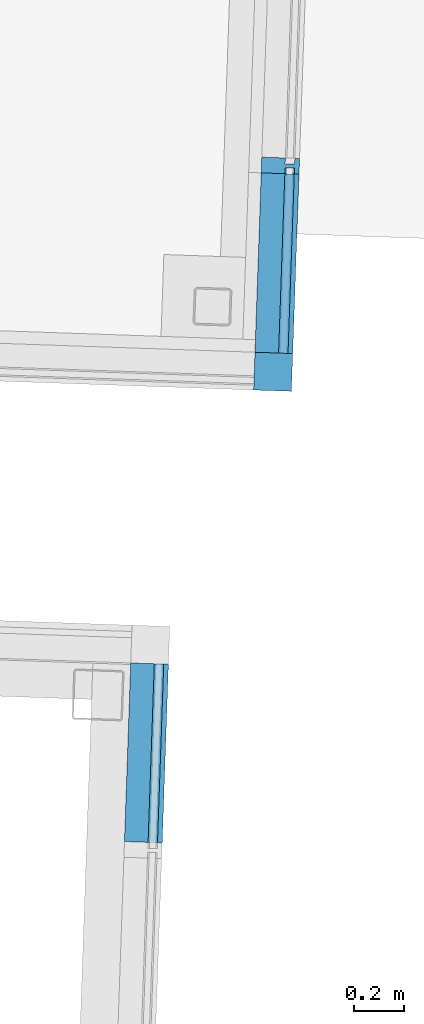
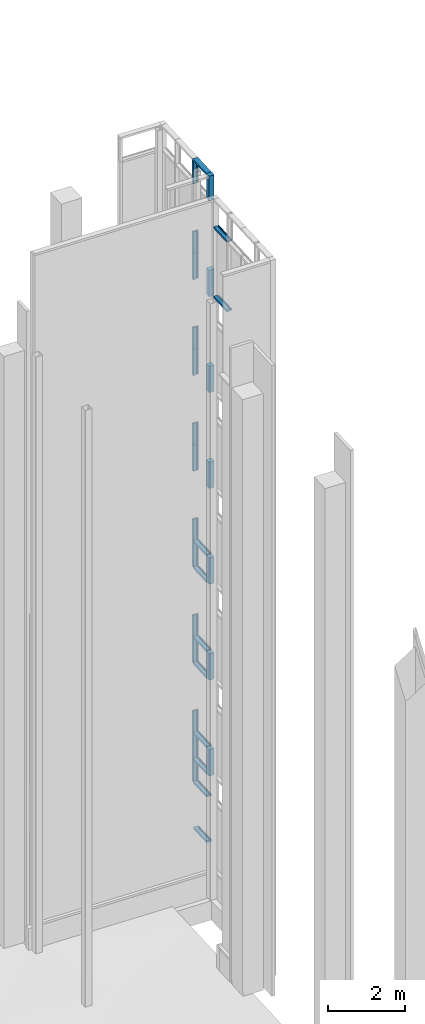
# One storey, part 18 of 44: 32 members, 3 elements without a shape of their own.
"""IFC2X3 building model written with IfcOpenShell, lengths in feet."""

from ifc_helpers import new_model, entity, si_unit, converted_unit, derived_unit, direction, frame, origin, origin_2d_with_axis, place, context, subcontext, project, spatial, polyline, rectangle, outline, extrude, material, type_object, element, aggregate, save


model = new_model("IFC2X3")

# Units and contexts
model_context = context("Model", 3, precision=0.0001, world=origin(), true_north=direction((0.999390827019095, 0.0348994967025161)))
body_context = subcontext(model_context, "Body", "Model", "MODEL_VIEW")
ifc_project = project(units=[converted_unit("LENGTHUNIT", "FOOT", entity("IfcRatioMeasure", 0.3048), si_unit("LENGTHUNIT", "METRE"), dimensions=[1, 0, 0, 0, 0, 0, 0]), converted_unit("AREAUNIT", "SQUARE FOOT", entity("IfcRatioMeasure", 0.09290304), si_unit("AREAUNIT", "SQUARE_METRE"), dimensions=[2, 0, 0, 0, 0, 0, 0]), converted_unit("VOLUMEUNIT", "CUBIC FOOT", entity("IfcRatioMeasure", 0.028316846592), si_unit("VOLUMEUNIT", "CUBIC_METRE"), dimensions=[3, 0, 0, 0, 0, 0, 0]), converted_unit("PLANEANGLEUNIT", "DEGREE", entity("IfcRatioMeasure", 0.0174532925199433), si_unit("PLANEANGLEUNIT", "RADIAN"), dimensions=[0, 0, 0, 0, 0, 0, 0]), si_unit("MASSUNIT", "GRAM", prefix="KILO"), si_unit("TIMEUNIT", "SECOND"), si_unit("FREQUENCYUNIT", "HERTZ"), si_unit("THERMODYNAMICTEMPERATUREUNIT", "DEGREE_CELSIUS"), derived_unit("THERMALTRANSMITTANCEUNIT", [(si_unit("MASSUNIT", "GRAM", prefix="KILO"), 1), (si_unit("THERMODYNAMICTEMPERATUREUNIT", "KELVIN"), -1), (si_unit("TIMEUNIT", "SECOND"), -3)]), derived_unit("VOLUMETRICFLOWRATEUNIT", [(si_unit("LENGTHUNIT", "METRE"), 3), (si_unit("TIMEUNIT", "SECOND"), -1)]), si_unit("ELECTRICCURRENTUNIT", "AMPERE"), si_unit("ELECTRICVOLTAGEUNIT", "VOLT"), si_unit("POWERUNIT", "WATT"), si_unit("FORCEUNIT", "NEWTON"), si_unit("ILLUMINANCEUNIT", "LUX"), si_unit("LUMINOUSFLUXUNIT", "LUMEN"), si_unit("LUMINOUSINTENSITYUNIT", "CANDELA"), derived_unit("USERDEFINED", [(si_unit("MASSUNIT", "GRAM", prefix="KILO"), -1), (si_unit("LENGTHUNIT", "METRE"), -2), (si_unit("TIMEUNIT", "SECOND"), 3), (si_unit("LUMINOUSFLUXUNIT", "LUMEN"), 1)]), derived_unit("LINEARVELOCITYUNIT", [(si_unit("LENGTHUNIT", "METRE"), 1), (si_unit("TIMEUNIT", "SECOND"), -1)]), si_unit("PRESSUREUNIT", "PASCAL"), derived_unit("USERDEFINED", [(si_unit("LENGTHUNIT", "METRE"), -2), (si_unit("MASSUNIT", "GRAM", prefix="KILO"), 1), (si_unit("TIMEUNIT", "SECOND"), -2)])], contexts=[model_context])

# Site, building, storey
site_placement = place(None, frame((892.518771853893, 322.38689265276, 0.00393700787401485), z_axis=(0.0, 0.0, 1.0), x_axis=(0.0348994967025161, 0.999390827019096, 0.0)))
site = spatial("IfcSite", under=ifc_project, at=site_placement, Name="Default", CompositionType="ELEMENT")
building_placement = place(site_placement, origin())
building = spatial("IfcBuilding", under=site, at=building_placement, CompositionType="ELEMENT")
storey_placement = place(building_placement, frame((0.0, 0.0, 544.75)))
storey = spatial("IfcBuildingStorey", under=building, at=storey_placement, Name="Exist Garage - Ground Level", CompositionType="ELEMENT", Elevation=544.75)

# Curtain wall, members
curtain_wall_type = type_object("IfcCurtainWallType", Name="Curtain Wall:(Existing) Curtainwall - Blank", PredefinedType="NOTDEFINED")
curtain_wall_1_placement = place(storey_placement, frame((0.0, 0.0, -544.75)))
curtain_wall_1 = element("IfcCurtainWall", 1, at=curtain_wall_1_placement, inside=storey, type_object=curtain_wall_type, Name="Curtain Wall:(Existing) Curtainwall - Blank", ObjectType="Curtain Wall:(Existing) Curtainwall - Blank")
ifc_material = material(Name="Metal - Aluminum")
member_1_placement = place(curtain_wall_1_placement, frame((0.0, 0.0, 544.75)))
member_1 = element("IfcMember", 2, at=member_1_placement, material=ifc_material, Name="Curtain Wall:(Existing) Curtainwall - Blank", ObjectType="Curtain Wall:(Existing) Curtainwall - Blank", context=body_context, shape_type="SweptSolid", body=[
    extrude(outline(polyline([(-0.104166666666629, -0.166666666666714), (0.104166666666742, -0.166666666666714), (0.104166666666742, -0.104166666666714), (0.0260416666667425, -0.104166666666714), (0.0260416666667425, 0.020833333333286), (0.104166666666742, 0.020833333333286), (0.104166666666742, 0.333333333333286), (-0.104166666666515, 0.333333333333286), (-0.104166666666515, 0.020833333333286), (-0.0260416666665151, 0.020833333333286), (-0.0260416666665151, -0.104166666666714), (-0.104166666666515, -0.104166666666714), (-0.104166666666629, -0.166666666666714)])), frame((99.2293801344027, 232.43062014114, 62.2500000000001), z_axis=(1.0, 0.0, 0.0), x_axis=(0.0, 0.0, -1.0)), (0.0, 0.0, 1.0), 2.36458333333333),
])
member_2_placement = place(curtain_wall_1_placement, frame((0.0, 0.0, 544.75)))
member_2 = element("IfcMember", 3, at=member_2_placement, material=ifc_material, Name="Curtain Wall:(Existing) Curtainwall - Blank", ObjectType="Curtain Wall:(Existing) Curtainwall - Blank", context=body_context, shape_type="SweptSolid", body=[
    extrude(outline(polyline([(-0.104166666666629, -0.166666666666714), (0.104166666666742, -0.166666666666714), (0.104166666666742, -0.104166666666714), (0.0260416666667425, -0.104166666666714), (0.0260416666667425, 0.020833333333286), (0.104166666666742, 0.020833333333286), (0.104166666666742, 0.333333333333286), (-0.104166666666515, 0.333333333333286), (-0.104166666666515, 0.020833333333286), (-0.0260416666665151, 0.020833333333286), (-0.0260416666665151, -0.104166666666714), (-0.104166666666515, -0.104166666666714), (-0.104166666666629, -0.166666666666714)])), frame((99.2293801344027, 232.43062014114, 69.5000000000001), z_axis=(1.0, 0.0, 0.0), x_axis=(0.0, 0.0, -1.0)), (0.0, 0.0, 1.0), 2.36458333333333),
])
aggregate(curtain_wall_1, [member_1, member_2])

curtain_wall_2_placement = place(storey_placement, frame((0.0, 0.0, -544.75)))
curtain_wall_2 = element("IfcCurtainWall", 4, at=curtain_wall_2_placement, inside=storey, type_object=curtain_wall_type, Name="Curtain Wall:(Existing) Curtainwall - Blank", ObjectType="Curtain Wall:(Existing) Curtainwall - Blank")
member_3_placement = place(curtain_wall_2_placement, frame((0.0, 0.0, 544.75)))
member_3 = element("IfcMember", 5, at=member_3_placement, material=ifc_material, Name="Curtain Wall:(Existing) Curtainwall - Blank", ObjectType="Curtain Wall:(Existing) Curtainwall - Blank", context=body_context, shape_type="SweptSolid", body=[
    extrude(rectangle(XDim=0.5, YDim=0.5, at=origin_2d_with_axis()), frame((105.510626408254, 231.013953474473, 9.5), z_axis=(0.0, 0.0, 1.0), x_axis=(-1.0, 0.0, 0.0)), (0.0, 0.0, 1.0), 2.75),
])
member_4_placement = place(curtain_wall_2_placement, frame((0.0, 0.0, 544.75)))
member_4 = element("IfcMember", 6, at=member_4_placement, material=ifc_material, Name="Curtain Wall:(Existing) Curtainwall - Blank", ObjectType="Curtain Wall:(Existing) Curtainwall - Blank", context=body_context, shape_type="SweptSolid", body=[
    extrude(rectangle(XDim=0.5, YDim=0.5, at=origin_2d_with_axis()), frame((105.510626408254, 231.013953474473, 19.5), z_axis=(0.0, 0.0, 1.0), x_axis=(-1.0, 0.0, 0.0)), (0.0, 0.0, 1.0), 2.75),
])
member_5_placement = place(curtain_wall_2_placement, frame((0.0, 0.0, 544.75)))
member_5 = element("IfcMember", 7, at=member_5_placement, material=ifc_material, Name="Curtain Wall:(Existing) Curtainwall - Blank", ObjectType="Curtain Wall:(Existing) Curtainwall - Blank", context=body_context, shape_type="SweptSolid", body=[
    extrude(rectangle(XDim=0.5, YDim=0.5, at=origin_2d_with_axis()), frame((105.510626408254, 231.013953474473, 29.5), z_axis=(0.0, 0.0, 1.0), x_axis=(-1.0, 0.0, 0.0)), (0.0, 0.0, 1.0), 2.75),
])
member_6_placement = place(curtain_wall_2_placement, frame((0.0, 0.0, 544.75)))
member_6 = element("IfcMember", 8, at=member_6_placement, material=ifc_material, Name="Curtain Wall:(Existing) Curtainwall - Blank", ObjectType="Curtain Wall:(Existing) Curtainwall - Blank", context=body_context, shape_type="SweptSolid", body=[
    extrude(rectangle(XDim=0.5, YDim=0.5, at=origin_2d_with_axis()), frame((105.510626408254, 231.013953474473, 39.5), z_axis=(0.0, 0.0, 1.0), x_axis=(-1.0, 0.0, 0.0)), (0.0, 0.0, 1.0), 2.75),
])
member_7_placement = place(curtain_wall_2_placement, frame((0.0, 0.0, 544.75)))
member_7 = element("IfcMember", 9, at=member_7_placement, material=ifc_material, Name="Curtain Wall:(Existing) Curtainwall - Blank", ObjectType="Curtain Wall:(Existing) Curtainwall - Blank", context=body_context, shape_type="SweptSolid", body=[
    extrude(rectangle(XDim=0.5, YDim=0.5, at=origin_2d_with_axis()), frame((105.510626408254, 231.013953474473, 49.5), z_axis=(0.0, 0.0, 1.0), x_axis=(-1.0, 0.0, 0.0)), (0.0, 0.0, 1.0), 2.75),
])
member_8_placement = place(curtain_wall_2_placement, frame((0.0, 0.0, 544.75)))
member_8 = element("IfcMember", 10, at=member_8_placement, material=ifc_material, Name="Curtain Wall:(Existing) Curtainwall - Blank", ObjectType="Curtain Wall:(Existing) Curtainwall - Blank", context=body_context, shape_type="SweptSolid", body=[
    extrude(rectangle(XDim=0.5, YDim=0.5, at=origin_2d_with_axis()), frame((105.510626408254, 231.013953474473, 59.5), z_axis=(0.0, 0.0, 1.0), x_axis=(-1.0, 0.0, 0.0)), (0.0, 0.0, 1.0), 2.75),
])
member_9_placement = place(curtain_wall_2_placement, frame((0.0, 0.0, 544.75)))
member_9 = element("IfcMember", 11, at=member_9_placement, material=ifc_material, Name="Curtain Wall:(Existing) Curtainwall - Blank", ObjectType="Curtain Wall:(Existing) Curtainwall - Blank", context=body_context, shape_type="SweptSolid", body=[
    extrude(rectangle(XDim=0.5, YDim=0.5, at=origin_2d_with_axis()), frame((105.510626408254, 231.013953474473, 69.5), z_axis=(0.0, 0.0, 1.0), x_axis=(-1.0, 0.0, 0.0)), (0.0, 0.0, 1.0), 2.58333333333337),
])
aggregate(curtain_wall_2, [member_3, member_4, member_5, member_6, member_7, member_8, member_9])

curtain_wall_3_placement = place(storey_placement, frame((0.0, 0.0, -544.75)))
curtain_wall_3 = element("IfcCurtainWall", 12, at=curtain_wall_3_placement, inside=storey, type_object=curtain_wall_type, Name="Curtain Wall:(Existing) Curtainwall - Blank", ObjectType="Curtain Wall:(Existing) Curtainwall - Blank")
member_10_placement = place(curtain_wall_3_placement, frame((0.0, 0.0, 544.75)))
member_10 = element("IfcMember", 13, at=member_10_placement, material=ifc_material, Name="Curtain Wall:(Existing) Curtainwall - Blank", ObjectType="Curtain Wall:(Existing) Curtainwall - Blank", context=body_context, shape_type="SweptSolid", body=[
    extrude(outline(polyline([(-0.104166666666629, -0.333333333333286), (0.104166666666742, -0.333333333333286), (0.104166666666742, -0.020833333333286), (0.0260416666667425, -0.020833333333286), (0.0260416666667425, 0.104166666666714), (0.104166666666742, 0.104166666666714), (0.104166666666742, 0.166666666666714), (-0.104166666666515, 0.166666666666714), (-0.104166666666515, 0.104166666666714), (-0.0260416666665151, 0.104166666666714), (-0.0260416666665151, -0.020833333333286), (-0.104166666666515, -0.020833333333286), (-0.104166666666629, -0.333333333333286)])), frame((108.135628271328, 230.93062014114, 9.50000000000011), z_axis=(-1.0, 0.0, 0.0), x_axis=(0.0, 0.0, -1.0)), (0.0, 0.0, 1.0), 2.37500186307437),
])
member_11_placement = place(curtain_wall_3_placement, frame((0.0, 0.0, 544.75)))
member_11 = element("IfcMember", 14, at=member_11_placement, material=ifc_material, Name="Curtain Wall:(Existing) Curtainwall - Blank", ObjectType="Curtain Wall:(Existing) Curtainwall - Blank", context=body_context, shape_type="SweptSolid", body=[
    extrude(outline(polyline([(-0.0716145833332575, -0.1875), (0.136718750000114, -0.1875), (0.136718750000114, 0.3125), (-0.0716145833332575, 0.3125), (-0.0716145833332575, 0.0), (0.00651041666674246, 0.0), (0.00651041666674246, -0.125), (-0.0716145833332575, -0.125), (-0.0716145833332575, -0.1875)])), frame((105.760626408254, 230.951453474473, 2.38671875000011), z_axis=(1.0, 0.0, 0.0), x_axis=(0.0, 0.0, -1.0)), (0.0, 0.0, 1.0), 2.37500186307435),
])
member_12_placement = place(curtain_wall_3_placement, frame((0.0, 0.0, 544.75)))
member_12 = element("IfcMember", 15, at=member_12_placement, material=ifc_material, Name="Curtain Wall:(Existing) Curtainwall - Blank", ObjectType="Curtain Wall:(Existing) Curtainwall - Blank", context=body_context, shape_type="SweptSolid", body=[
    extrude(outline(polyline([(-0.13671875, -0.3125), (0.0716145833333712, -0.3125), (0.0716145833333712, 0.0), (-0.00651041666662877, 0.0), (-0.00651041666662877, 0.125), (0.0716145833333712, 0.125), (0.0716145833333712, 0.1875), (-0.13671875, 0.1875), (-0.13671875, -0.3125)])), frame((108.239794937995, 230.951453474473, 71.9466145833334), z_axis=(-1.0, 0.0, 0.0), x_axis=(0.0, 0.0, -1.0)), (0.0, 0.0, 1.0), 2.47916852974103),
])
member_13_placement = place(curtain_wall_3_placement, frame((0.0, 0.0, 544.75)))
member_13 = element("IfcMember", 16, at=member_13_placement, material=ifc_material, Name="Curtain Wall:(Existing) Curtainwall - Blank", ObjectType="Curtain Wall:(Existing) Curtainwall - Blank", context=body_context, shape_type="SweptSolid", body=[
    extrude(outline(polyline([(-0.104166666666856, -0.333333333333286), (0.104166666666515, -0.333333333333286), (0.104166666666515, -0.020833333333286), (0.0260416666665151, -0.020833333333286), (0.0260416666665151, 0.104166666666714), (0.104166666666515, 0.104166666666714), (0.104166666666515, 0.166666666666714), (-0.104166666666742, 0.166666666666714), (-0.104166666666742, 0.104166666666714), (-0.0260416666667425, 0.104166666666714), (-0.0260416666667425, -0.020833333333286), (-0.104166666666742, -0.020833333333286), (-0.104166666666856, -0.333333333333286)])), frame((108.135628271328, 230.93062014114, 7.10416666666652), z_axis=(-1.0, 0.0, 0.0), x_axis=(0.0, 0.0, -1.0)), (0.0, 0.0, 1.0), 2.37500186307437),
])
member_14_placement = place(curtain_wall_3_placement, frame((0.0, 0.0, 544.75)))
member_14 = element("IfcMember", 17, at=member_14_placement, material=ifc_material, Name="Curtain Wall:(Existing) Curtainwall - Blank", ObjectType="Curtain Wall:(Existing) Curtainwall - Blank", context=body_context, shape_type="SweptSolid", body=[
    extrude(outline(polyline([(-0.104166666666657, -0.333333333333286), (0.104166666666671, -0.333333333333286), (0.104166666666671, -0.020833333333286), (0.0260416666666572, -0.020833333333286), (0.0260416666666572, 0.104166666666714), (0.104166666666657, 0.104166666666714), (0.104166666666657, 0.166666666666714), (-0.104166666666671, 0.166666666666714), (-0.104166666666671, 0.104166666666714), (-0.0260416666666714, 0.104166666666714), (-0.0260416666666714, -0.020833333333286), (-0.104166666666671, -0.020833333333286), (-0.104166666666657, -0.333333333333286)])), frame((108.239794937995, 230.93062014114, 32.25), z_axis=(0.0, 0.0, 1.0), x_axis=(-1.0, 0.0, 0.0)), (0.0, 0.0, 1.0), 2.25),
])
member_15_placement = place(curtain_wall_3_placement, frame((0.0, 0.0, 544.75)))
member_15 = element("IfcMember", 18, at=member_15_placement, material=ifc_material, Name="Curtain Wall:(Existing) Curtainwall - Blank", ObjectType="Curtain Wall:(Existing) Curtainwall - Blank", context=body_context, shape_type="SweptSolid", body=[
    extrude(outline(polyline([(-0.104166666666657, -0.333333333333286), (0.104166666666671, -0.333333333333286), (0.104166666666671, -0.020833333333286), (0.0260416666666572, -0.020833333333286), (0.0260416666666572, 0.104166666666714), (0.104166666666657, 0.104166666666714), (0.104166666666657, 0.166666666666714), (-0.104166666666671, 0.166666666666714), (-0.104166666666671, 0.104166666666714), (-0.0260416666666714, 0.104166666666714), (-0.0260416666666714, -0.020833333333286), (-0.104166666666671, -0.020833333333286), (-0.104166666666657, -0.333333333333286)])), frame((108.239794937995, 230.93062014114, 39.5), z_axis=(0.0, 0.0, 1.0), x_axis=(-1.0, 0.0, 0.0)), (0.0, 0.0, 1.0), 2.75),
])
member_16_placement = place(curtain_wall_3_placement, frame((0.0, 0.0, 544.75)))
member_16 = element("IfcMember", 19, at=member_16_placement, material=ifc_material, Name="Curtain Wall:(Existing) Curtainwall - Blank", ObjectType="Curtain Wall:(Existing) Curtainwall - Blank", context=body_context, shape_type="SweptSolid", body=[
    extrude(outline(polyline([(-0.104166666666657, -0.333333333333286), (0.104166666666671, -0.333333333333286), (0.104166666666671, -0.020833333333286), (0.0260416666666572, -0.020833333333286), (0.0260416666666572, 0.104166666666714), (0.104166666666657, 0.104166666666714), (0.104166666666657, 0.166666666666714), (-0.104166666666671, 0.166666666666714), (-0.104166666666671, 0.104166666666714), (-0.0260416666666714, 0.104166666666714), (-0.0260416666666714, -0.020833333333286), (-0.104166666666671, -0.020833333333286), (-0.104166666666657, -0.333333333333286)])), frame((108.239794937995, 230.93062014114, 52.25), z_axis=(0.0, 0.0, 1.0), x_axis=(-1.0, 0.0, 0.0)), (0.0, 0.0, 1.0), 2.25),
])
member_17_placement = place(curtain_wall_3_placement, frame((0.0, 0.0, 544.75)))
member_17 = element("IfcMember", 20, at=member_17_placement, material=ifc_material, Name="Curtain Wall:(Existing) Curtainwall - Blank", ObjectType="Curtain Wall:(Existing) Curtainwall - Blank", context=body_context, shape_type="SweptSolid", body=[
    extrude(outline(polyline([(-0.104166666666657, -0.333333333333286), (0.104166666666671, -0.333333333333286), (0.104166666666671, -0.020833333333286), (0.0260416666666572, -0.020833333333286), (0.0260416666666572, 0.104166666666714), (0.104166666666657, 0.104166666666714), (0.104166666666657, 0.166666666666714), (-0.104166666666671, 0.166666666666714), (-0.104166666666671, 0.104166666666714), (-0.0260416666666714, 0.104166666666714), (-0.0260416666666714, -0.020833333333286), (-0.104166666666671, -0.020833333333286), (-0.104166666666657, -0.333333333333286)])), frame((108.239794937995, 230.93062014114, 59.5), z_axis=(0.0, 0.0, 1.0), x_axis=(-1.0, 0.0, 0.0)), (0.0, 0.0, 1.0), 2.75),
])
member_18_placement = place(curtain_wall_3_placement, frame((0.0, 0.0, 544.75)))
member_18 = element("IfcMember", 21, at=member_18_placement, material=ifc_material, Name="Curtain Wall:(Existing) Curtainwall - Blank", ObjectType="Curtain Wall:(Existing) Curtainwall - Blank", context=body_context, shape_type="SweptSolid", body=[
    extrude(outline(polyline([(-0.104166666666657, -0.333333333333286), (0.104166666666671, -0.333333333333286), (0.104166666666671, -0.020833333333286), (0.0260416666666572, -0.020833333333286), (0.0260416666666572, 0.104166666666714), (0.104166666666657, 0.104166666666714), (0.104166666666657, 0.166666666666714), (-0.104166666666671, 0.166666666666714), (-0.104166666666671, 0.104166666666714), (-0.0260416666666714, 0.104166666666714), (-0.0260416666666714, -0.020833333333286), (-0.104166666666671, -0.020833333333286), (-0.104166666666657, -0.333333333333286)])), frame((108.239794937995, 230.93062014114, 42.25), z_axis=(0.0, 0.0, 1.0), x_axis=(-1.0, 0.0, 0.0)), (0.0, 0.0, 1.0), 2.25),
])
member_19_placement = place(curtain_wall_3_placement, frame((0.0, 0.0, 544.75)))
member_19 = element("IfcMember", 22, at=member_19_placement, material=ifc_material, Name="Curtain Wall:(Existing) Curtainwall - Blank", ObjectType="Curtain Wall:(Existing) Curtainwall - Blank", context=body_context, shape_type="SweptSolid", body=[
    extrude(outline(polyline([(-0.104166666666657, -0.333333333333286), (0.104166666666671, -0.333333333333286), (0.104166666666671, -0.020833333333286), (0.0260416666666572, -0.020833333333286), (0.0260416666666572, 0.104166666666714), (0.104166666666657, 0.104166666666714), (0.104166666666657, 0.166666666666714), (-0.104166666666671, 0.166666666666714), (-0.104166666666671, 0.104166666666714), (-0.0260416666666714, 0.104166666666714), (-0.0260416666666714, -0.020833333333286), (-0.104166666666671, -0.020833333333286), (-0.104166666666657, -0.333333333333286)])), frame((108.239794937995, 230.93062014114, 49.5), z_axis=(0.0, 0.0, 1.0), x_axis=(-1.0, 0.0, 0.0)), (0.0, 0.0, 1.0), 2.75),
])
member_20_placement = place(curtain_wall_3_placement, frame((0.0, 0.0, 544.75)))
member_20 = element("IfcMember", 23, at=member_20_placement, material=ifc_material, Name="Curtain Wall:(Existing) Curtainwall - Blank", ObjectType="Curtain Wall:(Existing) Curtainwall - Blank", context=body_context, shape_type="SweptSolid", body=[
    extrude(outline(polyline([(-0.104166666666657, -0.333333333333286), (0.104166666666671, -0.333333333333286), (0.104166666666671, -0.020833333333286), (0.0260416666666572, -0.020833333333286), (0.0260416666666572, 0.104166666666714), (0.104166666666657, 0.104166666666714), (0.104166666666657, 0.166666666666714), (-0.104166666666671, 0.166666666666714), (-0.104166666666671, 0.104166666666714), (-0.0260416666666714, 0.104166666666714), (-0.0260416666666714, -0.020833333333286), (-0.104166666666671, -0.020833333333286), (-0.104166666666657, -0.333333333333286)])), frame((108.239794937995, 230.93062014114, 29.5), z_axis=(0.0, 0.0, 1.0), x_axis=(-1.0, 0.0, 0.0)), (0.0, 0.0, 1.0), 2.75),
])
member_21_placement = place(curtain_wall_3_placement, frame((0.0, 0.0, 544.75)))
member_21 = element("IfcMember", 24, at=member_21_placement, material=ifc_material, Name="Curtain Wall:(Existing) Curtainwall - Blank", ObjectType="Curtain Wall:(Existing) Curtainwall - Blank", context=body_context, shape_type="SweptSolid", body=[
    extrude(outline(polyline([(-0.104166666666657, -0.333333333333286), (0.104166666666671, -0.333333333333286), (0.104166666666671, -0.020833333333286), (0.0260416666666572, -0.020833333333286), (0.0260416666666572, 0.104166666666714), (0.104166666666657, 0.104166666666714), (0.104166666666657, 0.166666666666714), (-0.104166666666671, 0.166666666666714), (-0.104166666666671, 0.104166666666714), (-0.0260416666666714, 0.104166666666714), (-0.0260416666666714, -0.020833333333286), (-0.104166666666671, -0.020833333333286), (-0.104166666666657, -0.333333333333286)])), frame((108.239794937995, 230.93062014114, 9.5), z_axis=(0.0, 0.0, 1.0), x_axis=(-1.0, 0.0, 0.0)), (0.0, 0.0, 1.0), 2.75),
])
member_22_placement = place(curtain_wall_3_placement, frame((0.0, 0.0, 544.75)))
member_22 = element("IfcMember", 25, at=member_22_placement, material=ifc_material, Name="Curtain Wall:(Existing) Curtainwall - Blank", ObjectType="Curtain Wall:(Existing) Curtainwall - Blank", context=body_context, shape_type="SweptSolid", body=[
    extrude(outline(polyline([(-0.104166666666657, -0.333333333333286), (0.104166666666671, -0.333333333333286), (0.104166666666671, -0.020833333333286), (0.0260416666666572, -0.020833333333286), (0.0260416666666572, 0.104166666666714), (0.104166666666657, 0.104166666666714), (0.104166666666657, 0.166666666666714), (-0.104166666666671, 0.166666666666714), (-0.104166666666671, 0.104166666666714), (-0.0260416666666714, 0.104166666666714), (-0.0260416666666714, -0.020833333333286), (-0.104166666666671, -0.020833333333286), (-0.104166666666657, -0.333333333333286)])), frame((108.239794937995, 230.93062014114, 22.25), z_axis=(0.0, 0.0, 1.0), x_axis=(-1.0, 0.0, 0.0)), (0.0, 0.0, 1.0), 2.25),
])
member_23_placement = place(curtain_wall_3_placement, frame((0.0, 0.0, 544.75)))
member_23 = element("IfcMember", 26, at=member_23_placement, material=ifc_material, Name="Curtain Wall:(Existing) Curtainwall - Blank", ObjectType="Curtain Wall:(Existing) Curtainwall - Blank", context=body_context, shape_type="SweptSolid", body=[
    extrude(outline(polyline([(-0.104166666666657, -0.333333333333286), (0.104166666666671, -0.333333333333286), (0.104166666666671, -0.020833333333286), (0.0260416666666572, -0.020833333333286), (0.0260416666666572, 0.104166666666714), (0.104166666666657, 0.104166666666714), (0.104166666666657, 0.166666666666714), (-0.104166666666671, 0.166666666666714), (-0.104166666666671, 0.104166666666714), (-0.0260416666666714, 0.104166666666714), (-0.0260416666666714, -0.020833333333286), (-0.104166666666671, -0.020833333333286), (-0.104166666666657, -0.333333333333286)])), frame((108.239794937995, 230.93062014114, 12.25), z_axis=(0.0, 0.0, 1.0), x_axis=(-1.0, 0.0, 0.0)), (0.0, 0.0, 1.0), 2.25),
])
member_24_placement = place(curtain_wall_3_placement, frame((0.0, 0.0, 544.75)))
member_24 = element("IfcMember", 27, at=member_24_placement, material=ifc_material, Name="Curtain Wall:(Existing) Curtainwall - Blank", ObjectType="Curtain Wall:(Existing) Curtainwall - Blank", context=body_context, shape_type="SweptSolid", body=[
    extrude(outline(polyline([(-0.104166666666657, -0.333333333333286), (0.104166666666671, -0.333333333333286), (0.104166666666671, -0.020833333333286), (0.0260416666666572, -0.020833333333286), (0.0260416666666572, 0.104166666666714), (0.104166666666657, 0.104166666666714), (0.104166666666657, 0.166666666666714), (-0.104166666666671, 0.166666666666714), (-0.104166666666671, 0.104166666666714), (-0.0260416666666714, 0.104166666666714), (-0.0260416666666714, -0.020833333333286), (-0.104166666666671, -0.020833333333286), (-0.104166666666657, -0.333333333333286)])), frame((108.239794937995, 230.93062014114, 19.5), z_axis=(0.0, 0.0, 1.0), x_axis=(-1.0, 0.0, 0.0)), (0.0, 0.0, 1.0), 2.75),
])
member_25_placement = place(curtain_wall_3_placement, frame((0.0, 0.0, 544.75)))
member_25 = element("IfcMember", 28, at=member_25_placement, material=ifc_material, Name="Curtain Wall:(Existing) Curtainwall - Blank", ObjectType="Curtain Wall:(Existing) Curtainwall - Blank", context=body_context, shape_type="SweptSolid", body=[
    extrude(outline(polyline([(-0.104166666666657, -0.333333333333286), (0.104166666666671, -0.333333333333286), (0.104166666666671, -0.020833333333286), (0.0260416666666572, -0.020833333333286), (0.0260416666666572, 0.104166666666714), (0.104166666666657, 0.104166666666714), (0.104166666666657, 0.166666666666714), (-0.104166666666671, 0.166666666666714), (-0.104166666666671, 0.104166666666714), (-0.0260416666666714, 0.104166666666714), (-0.0260416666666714, -0.020833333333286), (-0.104166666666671, -0.020833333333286), (-0.104166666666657, -0.333333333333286)])), frame((108.239794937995, 230.93062014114, 62.25), z_axis=(0.0, 0.0, 1.0), x_axis=(-1.0, 0.0, 0.0)), (0.0, 0.0, 1.0), 2.25),
])
member_26_placement = place(curtain_wall_3_placement, frame((0.0, 0.0, 544.75)))
member_26 = element("IfcMember", 29, at=member_26_placement, material=ifc_material, Name="Curtain Wall:(Existing) Curtainwall - Blank", ObjectType="Curtain Wall:(Existing) Curtainwall - Blank", context=body_context, shape_type="SweptSolid", body=[
    extrude(outline(polyline([(-0.104166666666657, -0.333333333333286), (0.104166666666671, -0.333333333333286), (0.104166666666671, -0.020833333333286), (0.0260416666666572, -0.020833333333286), (0.0260416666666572, 0.104166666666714), (0.104166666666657, 0.104166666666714), (0.104166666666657, 0.166666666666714), (-0.104166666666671, 0.166666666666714), (-0.104166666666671, 0.104166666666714), (-0.0260416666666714, 0.104166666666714), (-0.0260416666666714, -0.020833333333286), (-0.104166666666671, -0.020833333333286), (-0.104166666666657, -0.333333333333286)])), frame((108.239794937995, 230.93062014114, 7.10416666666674), z_axis=(0.0, 0.0, 1.0), x_axis=(-1.0, 0.0, 0.0)), (0.0, 0.0, 1.0), 2.39583333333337),
])
member_27_placement = place(curtain_wall_3_placement, frame((0.0, 0.0, 544.75)))
member_27 = element("IfcMember", 30, at=member_27_placement, material=ifc_material, Name="Curtain Wall:(Existing) Curtainwall - Blank", ObjectType="Curtain Wall:(Existing) Curtainwall - Blank", context=body_context, shape_type="SweptSolid", body=[
    extrude(outline(polyline([(-0.104166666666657, -0.333333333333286), (0.104166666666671, -0.333333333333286), (0.104166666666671, -0.020833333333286), (0.0260416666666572, -0.020833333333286), (0.0260416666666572, 0.104166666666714), (0.104166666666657, 0.104166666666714), (0.104166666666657, 0.166666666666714), (-0.104166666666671, 0.166666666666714), (-0.104166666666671, 0.104166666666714), (-0.0260416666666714, 0.104166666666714), (-0.0260416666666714, -0.020833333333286), (-0.104166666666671, -0.020833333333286), (-0.104166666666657, -0.333333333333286)])), frame((108.239794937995, 230.93062014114, 69.5), z_axis=(0.0, 0.0, 1.0), x_axis=(-1.0, 0.0, 0.0)), (0.0, 0.0, 1.0), 2.375),
])
member_28_placement = place(curtain_wall_3_placement, frame((0.0, 0.0, 544.75)))
member_28 = element("IfcMember", 31, at=member_28_placement, material=ifc_material, Name="Curtain Wall:(Existing) Curtainwall - Blank", ObjectType="Curtain Wall:(Existing) Curtainwall - Blank", context=body_context, shape_type="SweptSolid", body=[
    extrude(outline(polyline([(-0.104166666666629, -0.333333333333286), (0.104166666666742, -0.333333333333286), (0.104166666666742, -0.020833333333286), (0.0260416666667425, -0.020833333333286), (0.0260416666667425, 0.104166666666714), (0.104166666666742, 0.104166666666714), (0.104166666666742, 0.166666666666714), (-0.104166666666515, 0.166666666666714), (-0.104166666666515, 0.104166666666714), (-0.0260416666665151, 0.104166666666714), (-0.0260416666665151, -0.020833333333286), (-0.104166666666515, -0.020833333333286), (-0.104166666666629, -0.333333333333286)])), frame((108.135628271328, 230.93062014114, 12.2500000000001), z_axis=(-1.0, 0.0, 0.0), x_axis=(0.0, 0.0, -1.0)), (0.0, 0.0, 1.0), 2.37500186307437),
])
member_29_placement = place(curtain_wall_3_placement, frame((0.0, 0.0, 544.75)))
member_29 = element("IfcMember", 32, at=member_29_placement, material=ifc_material, Name="Curtain Wall:(Existing) Curtainwall - Blank", ObjectType="Curtain Wall:(Existing) Curtainwall - Blank", context=body_context, shape_type="SweptSolid", body=[
    extrude(outline(polyline([(-0.104166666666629, -0.333333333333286), (0.104166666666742, -0.333333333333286), (0.104166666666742, -0.020833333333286), (0.0260416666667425, -0.020833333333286), (0.0260416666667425, 0.104166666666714), (0.104166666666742, 0.104166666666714), (0.104166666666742, 0.166666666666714), (-0.104166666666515, 0.166666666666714), (-0.104166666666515, 0.104166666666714), (-0.0260416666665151, 0.104166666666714), (-0.0260416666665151, -0.020833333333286), (-0.104166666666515, -0.020833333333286), (-0.104166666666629, -0.333333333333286)])), frame((108.135628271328, 230.93062014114, 19.5000000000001), z_axis=(-1.0, 0.0, 0.0), x_axis=(0.0, 0.0, -1.0)), (0.0, 0.0, 1.0), 2.37500186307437),
])
member_30_placement = place(curtain_wall_3_placement, frame((0.0, 0.0, 544.75)))
member_30 = element("IfcMember", 33, at=member_30_placement, material=ifc_material, Name="Curtain Wall:(Existing) Curtainwall - Blank", ObjectType="Curtain Wall:(Existing) Curtainwall - Blank", context=body_context, shape_type="SweptSolid", body=[
    extrude(outline(polyline([(-0.104166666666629, -0.333333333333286), (0.104166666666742, -0.333333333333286), (0.104166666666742, -0.020833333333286), (0.0260416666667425, -0.020833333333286), (0.0260416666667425, 0.104166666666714), (0.104166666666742, 0.104166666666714), (0.104166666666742, 0.166666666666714), (-0.104166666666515, 0.166666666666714), (-0.104166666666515, 0.104166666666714), (-0.0260416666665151, 0.104166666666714), (-0.0260416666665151, -0.020833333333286), (-0.104166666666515, -0.020833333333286), (-0.104166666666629, -0.333333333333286)])), frame((108.135628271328, 230.93062014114, 22.2500000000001), z_axis=(-1.0, 0.0, 0.0), x_axis=(0.0, 0.0, -1.0)), (0.0, 0.0, 1.0), 2.37500186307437),
])
member_31_placement = place(curtain_wall_3_placement, frame((0.0, 0.0, 544.75)))
member_31 = element("IfcMember", 34, at=member_31_placement, material=ifc_material, Name="Curtain Wall:(Existing) Curtainwall - Blank", ObjectType="Curtain Wall:(Existing) Curtainwall - Blank", context=body_context, shape_type="SweptSolid", body=[
    extrude(outline(polyline([(-0.104166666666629, -0.333333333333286), (0.104166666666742, -0.333333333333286), (0.104166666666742, -0.020833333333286), (0.0260416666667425, -0.020833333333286), (0.0260416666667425, 0.104166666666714), (0.104166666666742, 0.104166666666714), (0.104166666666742, 0.166666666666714), (-0.104166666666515, 0.166666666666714), (-0.104166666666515, 0.104166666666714), (-0.0260416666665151, 0.104166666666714), (-0.0260416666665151, -0.020833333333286), (-0.104166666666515, -0.020833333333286), (-0.104166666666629, -0.333333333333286)])), frame((108.135628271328, 230.93062014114, 29.5000000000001), z_axis=(-1.0, 0.0, 0.0), x_axis=(0.0, 0.0, -1.0)), (0.0, 0.0, 1.0), 2.37500186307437),
])
member_32_placement = place(curtain_wall_3_placement, frame((0.0, 0.0, 544.75)))
member_32 = element("IfcMember", 35, at=member_32_placement, material=ifc_material, Name="Curtain Wall:(Existing) Curtainwall - Blank", ObjectType="Curtain Wall:(Existing) Curtainwall - Blank", context=body_context, shape_type="SweptSolid", body=[
    extrude(outline(polyline([(-0.104166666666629, -0.333333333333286), (0.104166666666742, -0.333333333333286), (0.104166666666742, -0.020833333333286), (0.0260416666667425, -0.020833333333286), (0.0260416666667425, 0.104166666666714), (0.104166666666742, 0.104166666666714), (0.104166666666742, 0.166666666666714), (-0.104166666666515, 0.166666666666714), (-0.104166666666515, 0.104166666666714), (-0.0260416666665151, 0.104166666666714), (-0.0260416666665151, -0.020833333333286), (-0.104166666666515, -0.020833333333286), (-0.104166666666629, -0.333333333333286)])), frame((108.135628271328, 230.93062014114, 32.2500000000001), z_axis=(-1.0, 0.0, 0.0), x_axis=(0.0, 0.0, -1.0)), (0.0, 0.0, 1.0), 2.37500186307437),
])
aggregate(curtain_wall_3, [member_10, member_11, member_12, member_13, member_14, member_15, member_16, member_17, member_18, member_19, member_20, member_21, member_22, member_23, member_24, member_25, member_26, member_27, member_28, member_29, member_30, member_31, member_32])

save(model, "model.ifc")
